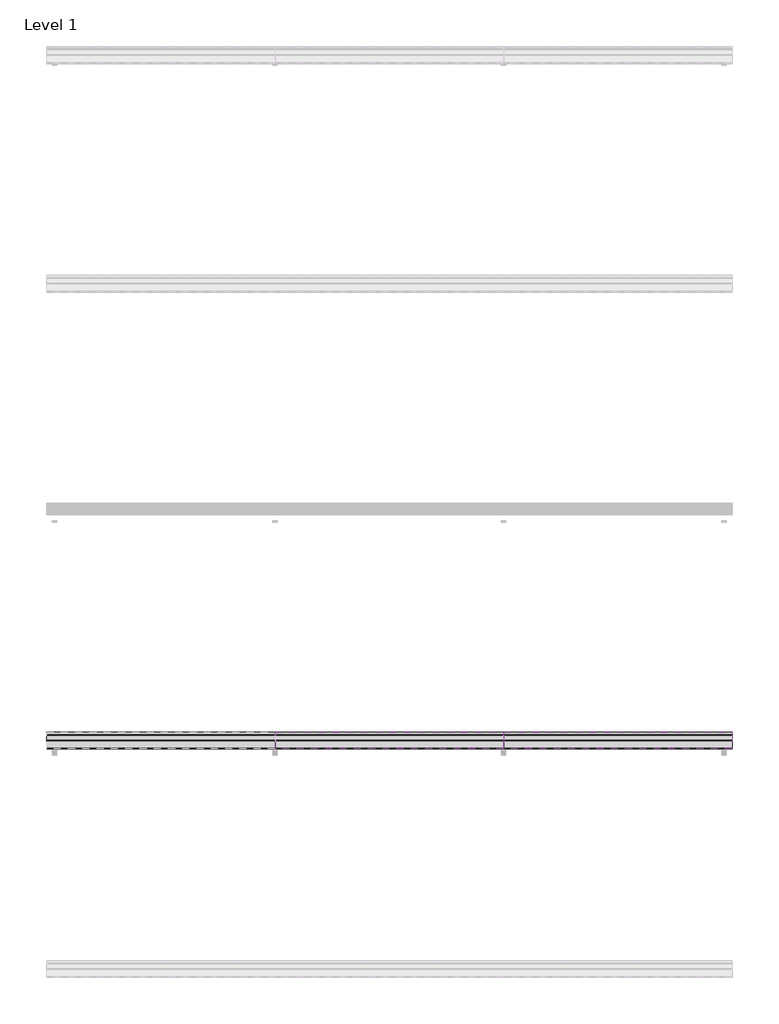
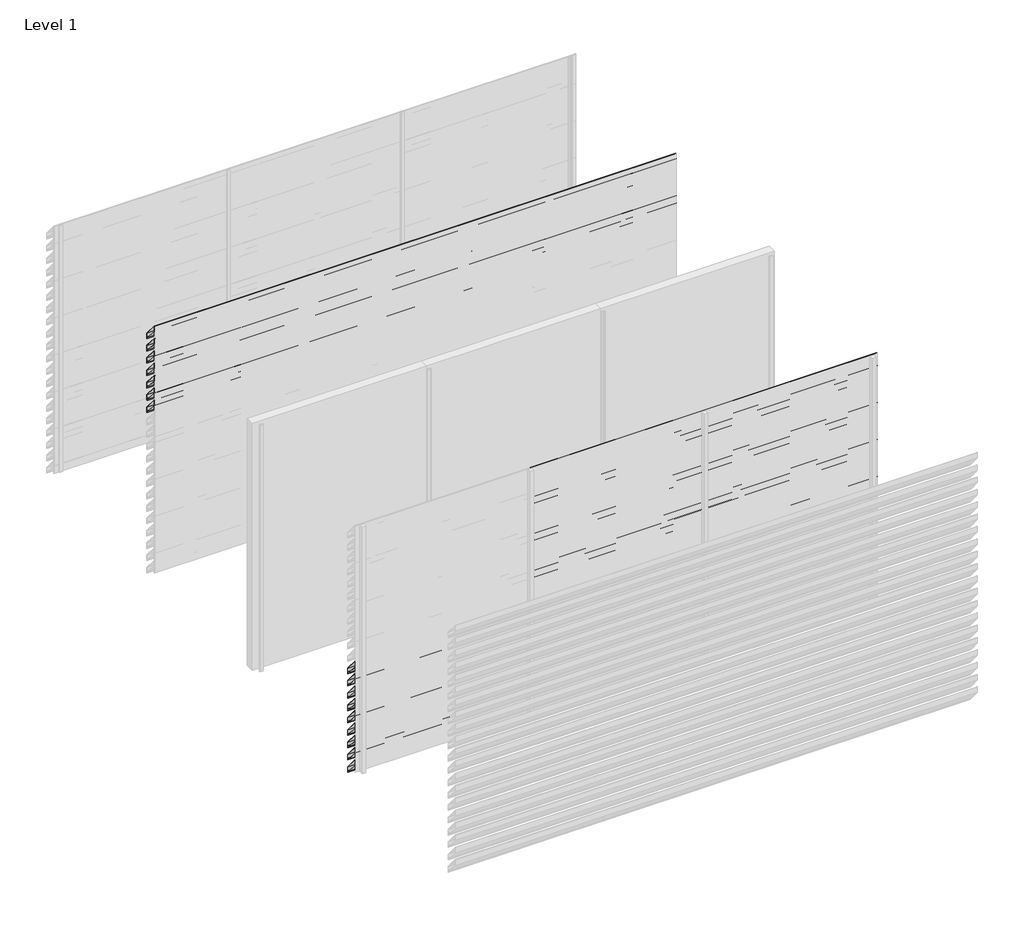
# One storey, part 9 of 16: 56 proxies.
"""IFC4 building model written with IfcOpenShell, lengths in millimetres."""

from ifc_helpers import new_model, si_unit, frame, origin, place, context, project, spatial, polyline, outline, extrude, element, save

model = new_model("IFC4")

# Units and contexts
model_context = context("Model", 3, world=origin())
ifc_project = project(units=[si_unit("LENGTHUNIT", "METRE", prefix="MILLI")], contexts=[model_context])

# Site, building, storey
site = spatial("IfcSite", under=ifc_project)
building = spatial("IfcBuilding", under=site)
storey = spatial("IfcBuildingStorey", under=building, Name="Level 1", Elevation=0.0)

# Proxies
placement = place(None, origin())
element("IfcBuildingElementProxy", 1, Name="Wall Sweeps", at=placement, inside=storey, context=model_context, shape_type="SweptSolid", body=[
    extrude(outline(polyline([(-25851.0, 2830.0), (-25851.0, 2761.0), (-25853.5, 2762.1657691), (-25853.5, 2775.7059843), (-25870.2498671, 2795.6676986), (-25880.9351065, 2795.6676986), (-25998.0, 2935.1802059), (-25998.0, 3000.0), (-25993.6469373, 3000.0), (-25851.0, 2830.0)]), holes=[polyline([(-25996.1, 2998.1), (-25996.1, 2935.8717493), (-25880.049122, 2797.5676986), (-25869.3638825, 2797.5676986), (-25852.9, 2777.9468074), (-25852.9, 2829.3084566), (-25994.5329219, 2998.1), (-25996.1, 2998.1)])]), frame((0.0, 0.0, 0.0), z_axis=(1.0, 0.0, 0.0), x_axis=(0.0, 1.0, 0.0)), (0.0, 0.0, 1.0), 6000.0),
])
element("IfcBuildingElementProxy", 2, Name="Wall Sweeps", at=placement, inside=storey, context=model_context, shape_type="SweptSolid", body=[
    extrude(outline(polyline([(-25851.0, 2680.0), (-25851.0, 2611.0), (-25853.5, 2612.1657691), (-25853.5, 2625.7059843), (-25870.2498671, 2645.6676986), (-25880.9351065, 2645.6676986), (-25998.0, 2785.1802059), (-25998.0, 2850.0), (-25993.6469373, 2850.0), (-25851.0, 2680.0)]), holes=[polyline([(-25996.1, 2848.1), (-25996.1, 2785.8717493), (-25880.049122, 2647.5676986), (-25869.3638825, 2647.5676986), (-25852.9, 2627.9468074), (-25852.9, 2679.3084566), (-25994.5329219, 2848.1), (-25996.1, 2848.1)])]), frame((0.0, 0.0, 0.0), z_axis=(1.0, 0.0, 0.0), x_axis=(0.0, 1.0, 0.0)), (0.0, 0.0, 1.0), 6000.0),
])
element("IfcBuildingElementProxy", 3, Name="Wall Sweeps", at=placement, inside=storey, context=model_context, shape_type="SweptSolid", body=[
    extrude(outline(polyline([(-25851.0, 2530.0), (-25851.0, 2461.0), (-25853.5, 2462.1657691), (-25853.5, 2475.7059843), (-25870.2498671, 2495.6676986), (-25880.9351065, 2495.6676986), (-25998.0, 2635.1802059), (-25998.0, 2700.0), (-25993.6469373, 2700.0), (-25851.0, 2530.0)]), holes=[polyline([(-25996.1, 2698.1), (-25996.1, 2635.8717493), (-25880.049122, 2497.5676986), (-25869.3638825, 2497.5676986), (-25852.9, 2477.9468074), (-25852.9, 2529.3084566), (-25994.5329219, 2698.1), (-25996.1, 2698.1)])]), frame((0.0, 0.0, 0.0), z_axis=(1.0, 0.0, 0.0), x_axis=(0.0, 1.0, 0.0)), (0.0, 0.0, 1.0), 6000.0),
])
element("IfcBuildingElementProxy", 4, Name="Wall Sweeps", at=placement, inside=storey, context=model_context, shape_type="SweptSolid", body=[
    extrude(outline(polyline([(-25851.0, 2380.0), (-25851.0, 2311.0), (-25853.5, 2312.1657691), (-25853.5, 2325.7059843), (-25870.2498671, 2345.6676986), (-25880.9351065, 2345.6676986), (-25998.0, 2485.1802059), (-25998.0, 2550.0), (-25993.6469373, 2550.0), (-25851.0, 2380.0)]), holes=[polyline([(-25996.1, 2548.1), (-25996.1, 2485.8717493), (-25880.049122, 2347.5676986), (-25869.3638825, 2347.5676986), (-25852.9, 2327.9468074), (-25852.9, 2379.3084566), (-25994.5329219, 2548.1), (-25996.1, 2548.1)])]), frame((0.0, 0.0, 0.0), z_axis=(1.0, 0.0, 0.0), x_axis=(0.0, 1.0, 0.0)), (0.0, 0.0, 1.0), 6000.0),
])
element("IfcBuildingElementProxy", 5, Name="Wall Sweeps", at=placement, inside=storey, context=model_context, shape_type="SweptSolid", body=[
    extrude(outline(polyline([(-25851.0, 2230.0), (-25851.0, 2161.0), (-25853.5, 2162.1657691), (-25853.5, 2175.7059843), (-25870.2498671, 2195.6676986), (-25880.9351065, 2195.6676986), (-25998.0, 2335.1802059), (-25998.0, 2400.0), (-25993.6469373, 2400.0), (-25851.0, 2230.0)]), holes=[polyline([(-25996.1, 2398.1), (-25996.1, 2335.8717493), (-25880.049122, 2197.5676986), (-25869.3638825, 2197.5676986), (-25852.9, 2177.9468074), (-25852.9, 2229.3084566), (-25994.5329219, 2398.1), (-25996.1, 2398.1)])]), frame((0.0, 0.0, 0.0), z_axis=(1.0, 0.0, 0.0), x_axis=(0.0, 1.0, 0.0)), (0.0, 0.0, 1.0), 6000.0),
])
element("IfcBuildingElementProxy", 6, Name="Wall Sweeps", at=placement, inside=storey, context=model_context, shape_type="SweptSolid", body=[
    extrude(outline(polyline([(-25851.0, 2080.0), (-25851.0, 2011.0), (-25853.5, 2012.1657691), (-25853.5, 2025.7059843), (-25870.2498671, 2045.6676986), (-25880.9351065, 2045.6676986), (-25998.0, 2185.1802059), (-25998.0, 2250.0), (-25993.6469373, 2250.0), (-25851.0, 2080.0)]), holes=[polyline([(-25996.1, 2248.1), (-25996.1, 2185.8717493), (-25880.049122, 2047.5676986), (-25869.3638825, 2047.5676986), (-25852.9, 2027.9468074), (-25852.9, 2079.3084566), (-25994.5329219, 2248.1), (-25996.1, 2248.1)])]), frame((0.0, 0.0, 0.0), z_axis=(1.0, 0.0, 0.0), x_axis=(0.0, 1.0, 0.0)), (0.0, 0.0, 1.0), 6000.0),
])
element("IfcBuildingElementProxy", 7, Name="Wall Sweeps", at=placement, inside=storey, context=model_context, shape_type="SweptSolid", body=[
    extrude(outline(polyline([(-25851.0, 1930.0), (-25851.0, 1861.0), (-25853.5, 1862.1657691), (-25853.5, 1875.7059843), (-25870.2498671, 1895.6676986), (-25880.9351065, 1895.6676986), (-25998.0, 2035.1802059), (-25998.0, 2100.0), (-25993.6469373, 2100.0), (-25851.0, 1930.0)]), holes=[polyline([(-25996.1, 2098.1), (-25996.1, 2035.8717493), (-25880.049122, 1897.5676986), (-25869.3638825, 1897.5676986), (-25852.9, 1877.9468074), (-25852.9, 1929.3084566), (-25994.5329219, 2098.1), (-25996.1, 2098.1)])]), frame((0.0, 0.0, 0.0), z_axis=(1.0, 0.0, 0.0), x_axis=(0.0, 1.0, 0.0)), (0.0, 0.0, 1.0), 6000.0),
])
element("IfcBuildingElementProxy", 8, Name="Wall Sweeps", at=placement, inside=storey, context=model_context, shape_type="SweptSolid", body=[
    extrude(outline(polyline([(-29851.0, 1180.0), (-29851.0, 1111.0), (-29853.5, 1112.1657691), (-29853.5, 1125.7059843), (-29870.2498671, 1145.6676986), (-29880.9351065, 1145.6676986), (-29998.0, 1285.1802059), (-29998.0, 1350.0), (-29993.6469373, 1350.0), (-29851.0, 1180.0)]), holes=[polyline([(-29996.1, 1348.1), (-29996.1, 1285.8717493), (-29880.049122, 1147.5676986), (-29869.3638825, 1147.5676986), (-29852.9, 1127.9468074), (-29852.9, 1179.3084566), (-29994.5329219, 1348.1), (-29996.1, 1348.1)])]), frame((0.0, 0.0, 0.0), z_axis=(1.0, 0.0, 0.0), x_axis=(0.0, 1.0, 0.0)), (0.0, 0.0, 1.0), 2000.0),
])
element("IfcBuildingElementProxy", 9, Name="Wall Sweeps", at=placement, inside=storey, context=model_context, shape_type="SweptSolid", body=[
    extrude(outline(polyline([(-29851.0, 1030.0), (-29851.0, 961.0), (-29853.5, 962.1657691), (-29853.5, 975.7059843), (-29870.2498671, 995.6676986), (-29880.9351065, 995.6676986), (-29998.0, 1135.1802059), (-29998.0, 1200.0), (-29993.6469373, 1200.0), (-29851.0, 1030.0)]), holes=[polyline([(-29996.1, 1198.1), (-29996.1, 1135.8717493), (-29880.049122, 997.5676986), (-29869.3638825, 997.5676986), (-29852.9, 977.9468074), (-29852.9, 1029.3084566), (-29994.5329219, 1198.1), (-29996.1, 1198.1)])]), frame((0.0, 0.0, 0.0), z_axis=(1.0, 0.0, 0.0), x_axis=(0.0, 1.0, 0.0)), (0.0, 0.0, 1.0), 2000.0),
])
element("IfcBuildingElementProxy", 10, Name="Wall Sweeps", at=placement, inside=storey, context=model_context, shape_type="SweptSolid", body=[
    extrude(outline(polyline([(-29851.0, 880.0), (-29851.0, 811.0), (-29853.5, 812.1657691), (-29853.5, 825.7059843), (-29870.2498671, 845.6676986), (-29880.9351065, 845.6676986), (-29998.0, 985.1802059), (-29998.0, 1050.0), (-29993.6469373, 1050.0), (-29851.0, 880.0)]), holes=[polyline([(-29996.1, 1048.1), (-29996.1, 985.8717493), (-29880.049122, 847.5676986), (-29869.3638825, 847.5676986), (-29852.9, 827.9468074), (-29852.9, 879.3084566), (-29994.5329219, 1048.1), (-29996.1, 1048.1)])]), frame((0.0, 0.0, 0.0), z_axis=(1.0, 0.0, 0.0), x_axis=(0.0, 1.0, 0.0)), (0.0, 0.0, 1.0), 2000.0),
])
element("IfcBuildingElementProxy", 11, Name="Wall Sweeps", at=placement, inside=storey, context=model_context, shape_type="SweptSolid", body=[
    extrude(outline(polyline([(-29851.0, 730.0), (-29851.0, 661.0), (-29853.5, 662.1657691), (-29853.5, 675.7059843), (-29870.2498671, 695.6676986), (-29880.9351065, 695.6676986), (-29998.0, 835.1802059), (-29998.0, 900.0), (-29993.6469373, 900.0), (-29851.0, 730.0)]), holes=[polyline([(-29996.1, 898.1), (-29996.1, 835.8717493), (-29880.049122, 697.5676986), (-29869.3638825, 697.5676986), (-29852.9, 677.9468074), (-29852.9, 729.3084566), (-29994.5329219, 898.1), (-29996.1, 898.1)])]), frame((0.0, 0.0, 0.0), z_axis=(1.0, 0.0, 0.0), x_axis=(0.0, 1.0, 0.0)), (0.0, 0.0, 1.0), 2000.0),
])
element("IfcBuildingElementProxy", 12, Name="Wall Sweeps", at=placement, inside=storey, context=model_context, shape_type="SweptSolid", body=[
    extrude(outline(polyline([(-29851.0, 580.0), (-29851.0, 511.0), (-29853.5, 512.1657691), (-29853.5, 525.7059843), (-29870.2498671, 545.6676986), (-29880.9351065, 545.6676986), (-29998.0, 685.1802059), (-29998.0, 750.0), (-29993.6469373, 750.0), (-29851.0, 580.0)]), holes=[polyline([(-29996.1, 748.1), (-29996.1, 685.8717493), (-29880.049122, 547.5676986), (-29869.3638825, 547.5676986), (-29852.9, 527.9468074), (-29852.9, 579.3084566), (-29994.5329219, 748.1), (-29996.1, 748.1)])]), frame((0.0, 0.0, 0.0), z_axis=(1.0, 0.0, 0.0), x_axis=(0.0, 1.0, 0.0)), (0.0, 0.0, 1.0), 2000.0),
])
element("IfcBuildingElementProxy", 13, Name="Wall Sweeps", at=placement, inside=storey, context=model_context, shape_type="SweptSolid", body=[
    extrude(outline(polyline([(-29851.0, 430.0), (-29851.0, 361.0), (-29853.5, 362.1657691), (-29853.5, 375.7059843), (-29870.2498671, 395.6676986), (-29880.9351065, 395.6676986), (-29998.0, 535.1802059), (-29998.0, 600.0), (-29993.6469373, 600.0), (-29851.0, 430.0)]), holes=[polyline([(-29996.1, 598.1), (-29996.1, 535.8717493), (-29880.049122, 397.5676986), (-29869.3638825, 397.5676986), (-29852.9, 377.9468074), (-29852.9, 429.3084566), (-29994.5329219, 598.1), (-29996.1, 598.1)])]), frame((0.0, 0.0, 0.0), z_axis=(1.0, 0.0, 0.0), x_axis=(0.0, 1.0, 0.0)), (0.0, 0.0, 1.0), 2000.0),
])
element("IfcBuildingElementProxy", 14, Name="Wall Sweeps", at=placement, inside=storey, context=model_context, shape_type="SweptSolid", body=[
    extrude(outline(polyline([(-29851.0, 280.0), (-29851.0, 211.0), (-29853.5, 212.1657691), (-29853.5, 225.7059843), (-29870.2498671, 245.6676986), (-29880.9351065, 245.6676986), (-29998.0, 385.1802059), (-29998.0, 450.0), (-29993.6469373, 450.0), (-29851.0, 280.0)]), holes=[polyline([(-29996.1, 448.1), (-29996.1, 385.8717493), (-29880.049122, 247.5676986), (-29869.3638825, 247.5676986), (-29852.9, 227.9468074), (-29852.9, 279.3084566), (-29994.5329219, 448.1), (-29996.1, 448.1)])]), frame((0.0, 0.0, 0.0), z_axis=(1.0, 0.0, 0.0), x_axis=(0.0, 1.0, 0.0)), (0.0, 0.0, 1.0), 2000.0),
])
element("IfcBuildingElementProxy", 15, Name="Wall Sweeps", at=placement, inside=storey, context=model_context, shape_type="SweptSolid", body=[
    extrude(outline(polyline([(-29851.0, 130.0), (-29851.0, 61.0), (-29853.5, 62.1657691), (-29853.5, 75.7059843), (-29870.2498671, 95.6676986), (-29880.9351065, 95.6676986), (-29998.0, 235.1802059), (-29998.0, 300.0), (-29993.6469373, 300.0), (-29851.0, 130.0)]), holes=[polyline([(-29996.1, 298.1), (-29996.1, 235.8717493), (-29880.049122, 97.5676986), (-29869.3638825, 97.5676986), (-29852.9, 77.9468074), (-29852.9, 129.3084566), (-29994.5329219, 298.1), (-29996.1, 298.1)])]), frame((0.0, 0.0, 0.0), z_axis=(1.0, 0.0, 0.0), x_axis=(0.0, 1.0, 0.0)), (0.0, 0.0, 1.0), 2000.0),
])
element("IfcBuildingElementProxy", 16, Name="Wall Sweeps", at=placement, inside=storey, context=model_context, shape_type="SweptSolid", body=[
    extrude(outline(polyline([(-29851.0, -20.0), (-29851.0, -89.0), (-29853.5, -87.8342309), (-29853.5, -74.2940157), (-29870.2498671, -54.3323014), (-29880.9351065, -54.3323014), (-29998.0, 85.1802059), (-29998.0, 150.0), (-29993.6469373, 150.0), (-29851.0, -20.0)]), holes=[polyline([(-29996.1, 148.1), (-29996.1, 85.8717493), (-29880.049122, -52.4323014), (-29869.3638825, -52.4323014), (-29852.9, -72.0531926), (-29852.9, -20.6915434), (-29994.5329219, 148.1), (-29996.1, 148.1)])]), frame((0.0, 0.0, 0.0), z_axis=(1.0, 0.0, 0.0), x_axis=(0.0, 1.0, 0.0)), (0.0, 0.0, 1.0), 2000.0),
])
element("IfcBuildingElementProxy", 17, Name="Wall Sweeps", at=placement, inside=storey, context=model_context, shape_type="SweptSolid", body=[
    extrude(outline(polyline([(-29851.0, 2830.0), (-29851.0, 2761.0), (-29853.5, 2762.1657691), (-29853.5, 2775.7059843), (-29870.2498671, 2795.6676986), (-29880.9351065, 2795.6676986), (-29998.0, 2935.1802059), (-29998.0, 3000.0), (-29993.6469373, 3000.0), (-29851.0, 2830.0)]), holes=[polyline([(-29996.1, 2998.1), (-29996.1, 2935.8717493), (-29880.049122, 2797.5676986), (-29869.3638825, 2797.5676986), (-29852.9, 2777.9468074), (-29852.9, 2829.3084566), (-29994.5329219, 2998.1), (-29996.1, 2998.1)])]), frame((2000.0, 0.0, 0.0), z_axis=(1.0, 0.0, 0.0), x_axis=(0.0, 1.0, 0.0)), (0.0, 0.0, 1.0), 2000.0),
])
element("IfcBuildingElementProxy", 18, Name="Wall Sweeps", at=placement, inside=storey, context=model_context, shape_type="SweptSolid", body=[
    extrude(outline(polyline([(-29851.0, 2680.0), (-29851.0, 2611.0), (-29853.5, 2612.1657691), (-29853.5, 2625.7059843), (-29870.2498671, 2645.6676986), (-29880.9351065, 2645.6676986), (-29998.0, 2785.1802059), (-29998.0, 2850.0), (-29993.6469373, 2850.0), (-29851.0, 2680.0)]), holes=[polyline([(-29996.1, 2848.1), (-29996.1, 2785.8717493), (-29880.049122, 2647.5676986), (-29869.3638825, 2647.5676986), (-29852.9, 2627.9468074), (-29852.9, 2679.3084566), (-29994.5329219, 2848.1), (-29996.1, 2848.1)])]), frame((2000.0, 0.0, 0.0), z_axis=(1.0, 0.0, 0.0), x_axis=(0.0, 1.0, 0.0)), (0.0, 0.0, 1.0), 2000.0),
])
element("IfcBuildingElementProxy", 19, Name="Wall Sweeps", at=placement, inside=storey, context=model_context, shape_type="SweptSolid", body=[
    extrude(outline(polyline([(-29851.0, 2530.0), (-29851.0, 2461.0), (-29853.5, 2462.1657691), (-29853.5, 2475.7059843), (-29870.2498671, 2495.6676986), (-29880.9351065, 2495.6676986), (-29998.0, 2635.1802059), (-29998.0, 2700.0), (-29993.6469373, 2700.0), (-29851.0, 2530.0)]), holes=[polyline([(-29996.1, 2698.1), (-29996.1, 2635.8717493), (-29880.049122, 2497.5676986), (-29869.3638825, 2497.5676986), (-29852.9, 2477.9468074), (-29852.9, 2529.3084566), (-29994.5329219, 2698.1), (-29996.1, 2698.1)])]), frame((2000.0, 0.0, 0.0), z_axis=(1.0, 0.0, 0.0), x_axis=(0.0, 1.0, 0.0)), (0.0, 0.0, 1.0), 2000.0),
])
element("IfcBuildingElementProxy", 20, Name="Wall Sweeps", at=placement, inside=storey, context=model_context, shape_type="SweptSolid", body=[
    extrude(outline(polyline([(-29851.0, 2380.0), (-29851.0, 2311.0), (-29853.5, 2312.1657691), (-29853.5, 2325.7059843), (-29870.2498671, 2345.6676986), (-29880.9351065, 2345.6676986), (-29998.0, 2485.1802059), (-29998.0, 2550.0), (-29993.6469373, 2550.0), (-29851.0, 2380.0)]), holes=[polyline([(-29996.1, 2548.1), (-29996.1, 2485.8717493), (-29880.049122, 2347.5676986), (-29869.3638825, 2347.5676986), (-29852.9, 2327.9468074), (-29852.9, 2379.3084566), (-29994.5329219, 2548.1), (-29996.1, 2548.1)])]), frame((2000.0, 0.0, 0.0), z_axis=(1.0, 0.0, 0.0), x_axis=(0.0, 1.0, 0.0)), (0.0, 0.0, 1.0), 2000.0),
])
element("IfcBuildingElementProxy", 21, Name="Wall Sweeps", at=placement, inside=storey, context=model_context, shape_type="SweptSolid", body=[
    extrude(outline(polyline([(-29851.0, 2230.0), (-29851.0, 2161.0), (-29853.5, 2162.1657691), (-29853.5, 2175.7059843), (-29870.2498671, 2195.6676986), (-29880.9351065, 2195.6676986), (-29998.0, 2335.1802059), (-29998.0, 2400.0), (-29993.6469373, 2400.0), (-29851.0, 2230.0)]), holes=[polyline([(-29996.1, 2398.1), (-29996.1, 2335.8717493), (-29880.049122, 2197.5676986), (-29869.3638825, 2197.5676986), (-29852.9, 2177.9468074), (-29852.9, 2229.3084566), (-29994.5329219, 2398.1), (-29996.1, 2398.1)])]), frame((2000.0, 0.0, 0.0), z_axis=(1.0, 0.0, 0.0), x_axis=(0.0, 1.0, 0.0)), (0.0, 0.0, 1.0), 2000.0),
])
element("IfcBuildingElementProxy", 22, Name="Wall Sweeps", at=placement, inside=storey, context=model_context, shape_type="SweptSolid", body=[
    extrude(outline(polyline([(-29851.0, 2080.0), (-29851.0, 2011.0), (-29853.5, 2012.1657691), (-29853.5, 2025.7059843), (-29870.2498671, 2045.6676986), (-29880.9351065, 2045.6676986), (-29998.0, 2185.1802059), (-29998.0, 2250.0), (-29993.6469373, 2250.0), (-29851.0, 2080.0)]), holes=[polyline([(-29996.1, 2248.1), (-29996.1, 2185.8717493), (-29880.049122, 2047.5676986), (-29869.3638825, 2047.5676986), (-29852.9, 2027.9468074), (-29852.9, 2079.3084566), (-29994.5329219, 2248.1), (-29996.1, 2248.1)])]), frame((2000.0, 0.0, 0.0), z_axis=(1.0, 0.0, 0.0), x_axis=(0.0, 1.0, 0.0)), (0.0, 0.0, 1.0), 2000.0),
])
element("IfcBuildingElementProxy", 23, Name="Wall Sweeps", at=placement, inside=storey, context=model_context, shape_type="SweptSolid", body=[
    extrude(outline(polyline([(-29851.0, 1930.0), (-29851.0, 1861.0), (-29853.5, 1862.1657691), (-29853.5, 1875.7059843), (-29870.2498671, 1895.6676986), (-29880.9351065, 1895.6676986), (-29998.0, 2035.1802059), (-29998.0, 2100.0), (-29993.6469373, 2100.0), (-29851.0, 1930.0)]), holes=[polyline([(-29996.1, 2098.1), (-29996.1, 2035.8717493), (-29880.049122, 1897.5676986), (-29869.3638825, 1897.5676986), (-29852.9, 1877.9468074), (-29852.9, 1929.3084566), (-29994.5329219, 2098.1), (-29996.1, 2098.1)])]), frame((2000.0, 0.0, 0.0), z_axis=(1.0, 0.0, 0.0), x_axis=(0.0, 1.0, 0.0)), (0.0, 0.0, 1.0), 2000.0),
])
element("IfcBuildingElementProxy", 24, Name="Wall Sweeps", at=placement, inside=storey, context=model_context, shape_type="SweptSolid", body=[
    extrude(outline(polyline([(-29851.0, 1780.0), (-29851.0, 1711.0), (-29853.5, 1712.1657691), (-29853.5, 1725.7059843), (-29870.2498671, 1745.6676986), (-29880.9351065, 1745.6676986), (-29998.0, 1885.1802059), (-29998.0, 1950.0), (-29993.6469373, 1950.0), (-29851.0, 1780.0)]), holes=[polyline([(-29996.1, 1948.1), (-29996.1, 1885.8717493), (-29880.049122, 1747.5676986), (-29869.3638825, 1747.5676986), (-29852.9, 1727.9468074), (-29852.9, 1779.3084566), (-29994.5329219, 1948.1), (-29996.1, 1948.1)])]), frame((2000.0, 0.0, 0.0), z_axis=(1.0, 0.0, 0.0), x_axis=(0.0, 1.0, 0.0)), (0.0, 0.0, 1.0), 2000.0),
])
element("IfcBuildingElementProxy", 25, Name="Wall Sweeps", at=placement, inside=storey, context=model_context, shape_type="SweptSolid", body=[
    extrude(outline(polyline([(-29851.0, 1630.0), (-29851.0, 1561.0), (-29853.5, 1562.1657691), (-29853.5, 1575.7059843), (-29870.2498671, 1595.6676986), (-29880.9351065, 1595.6676986), (-29998.0, 1735.1802059), (-29998.0, 1800.0), (-29993.6469373, 1800.0), (-29851.0, 1630.0)]), holes=[polyline([(-29996.1, 1798.1), (-29996.1, 1735.8717493), (-29880.049122, 1597.5676986), (-29869.3638825, 1597.5676986), (-29852.9, 1577.9468074), (-29852.9, 1629.3084566), (-29994.5329219, 1798.1), (-29996.1, 1798.1)])]), frame((2000.0, 0.0, 0.0), z_axis=(1.0, 0.0, 0.0), x_axis=(0.0, 1.0, 0.0)), (0.0, 0.0, 1.0), 2000.0),
])
element("IfcBuildingElementProxy", 26, Name="Wall Sweeps", at=placement, inside=storey, context=model_context, shape_type="SweptSolid", body=[
    extrude(outline(polyline([(-29851.0, 1480.0), (-29851.0, 1411.0), (-29853.5, 1412.1657691), (-29853.5, 1425.7059843), (-29870.2498671, 1445.6676986), (-29880.9351065, 1445.6676986), (-29998.0, 1585.1802059), (-29998.0, 1650.0), (-29993.6469373, 1650.0), (-29851.0, 1480.0)]), holes=[polyline([(-29996.1, 1648.1), (-29996.1, 1585.8717493), (-29880.049122, 1447.5676986), (-29869.3638825, 1447.5676986), (-29852.9, 1427.9468074), (-29852.9, 1479.3084566), (-29994.5329219, 1648.1), (-29996.1, 1648.1)])]), frame((2000.0, 0.0, 0.0), z_axis=(1.0, 0.0, 0.0), x_axis=(0.0, 1.0, 0.0)), (0.0, 0.0, 1.0), 2000.0),
])
element("IfcBuildingElementProxy", 27, Name="Wall Sweeps", at=placement, inside=storey, context=model_context, shape_type="SweptSolid", body=[
    extrude(outline(polyline([(-29851.0, 1330.0), (-29851.0, 1261.0), (-29853.5, 1262.1657691), (-29853.5, 1275.7059843), (-29870.2498671, 1295.6676986), (-29880.9351065, 1295.6676986), (-29998.0, 1435.1802059), (-29998.0, 1500.0), (-29993.6469373, 1500.0), (-29851.0, 1330.0)]), holes=[polyline([(-29996.1, 1498.1), (-29996.1, 1435.8717493), (-29880.049122, 1297.5676986), (-29869.3638825, 1297.5676986), (-29852.9, 1277.9468074), (-29852.9, 1329.3084566), (-29994.5329219, 1498.1), (-29996.1, 1498.1)])]), frame((2000.0, 0.0, 0.0), z_axis=(1.0, 0.0, 0.0), x_axis=(0.0, 1.0, 0.0)), (0.0, 0.0, 1.0), 2000.0),
])
element("IfcBuildingElementProxy", 28, Name="Wall Sweeps", at=placement, inside=storey, context=model_context, shape_type="SweptSolid", body=[
    extrude(outline(polyline([(-29851.0, 1180.0), (-29851.0, 1111.0), (-29853.5, 1112.1657691), (-29853.5, 1125.7059843), (-29870.2498671, 1145.6676986), (-29880.9351065, 1145.6676986), (-29998.0, 1285.1802059), (-29998.0, 1350.0), (-29993.6469373, 1350.0), (-29851.0, 1180.0)]), holes=[polyline([(-29996.1, 1348.1), (-29996.1, 1285.8717493), (-29880.049122, 1147.5676986), (-29869.3638825, 1147.5676986), (-29852.9, 1127.9468074), (-29852.9, 1179.3084566), (-29994.5329219, 1348.1), (-29996.1, 1348.1)])]), frame((2000.0, 0.0, 0.0), z_axis=(1.0, 0.0, 0.0), x_axis=(0.0, 1.0, 0.0)), (0.0, 0.0, 1.0), 2000.0),
])
element("IfcBuildingElementProxy", 29, Name="Wall Sweeps", at=placement, inside=storey, context=model_context, shape_type="SweptSolid", body=[
    extrude(outline(polyline([(-29851.0, 1030.0), (-29851.0, 961.0), (-29853.5, 962.1657691), (-29853.5, 975.7059843), (-29870.2498671, 995.6676986), (-29880.9351065, 995.6676986), (-29998.0, 1135.1802059), (-29998.0, 1200.0), (-29993.6469373, 1200.0), (-29851.0, 1030.0)]), holes=[polyline([(-29996.1, 1198.1), (-29996.1, 1135.8717493), (-29880.049122, 997.5676986), (-29869.3638825, 997.5676986), (-29852.9, 977.9468074), (-29852.9, 1029.3084566), (-29994.5329219, 1198.1), (-29996.1, 1198.1)])]), frame((2000.0, 0.0, 0.0), z_axis=(1.0, 0.0, 0.0), x_axis=(0.0, 1.0, 0.0)), (0.0, 0.0, 1.0), 2000.0),
])
element("IfcBuildingElementProxy", 30, Name="Wall Sweeps", at=placement, inside=storey, context=model_context, shape_type="SweptSolid", body=[
    extrude(outline(polyline([(-29851.0, 880.0), (-29851.0, 811.0), (-29853.5, 812.1657691), (-29853.5, 825.7059843), (-29870.2498671, 845.6676986), (-29880.9351065, 845.6676986), (-29998.0, 985.1802059), (-29998.0, 1050.0), (-29993.6469373, 1050.0), (-29851.0, 880.0)]), holes=[polyline([(-29996.1, 1048.1), (-29996.1, 985.8717493), (-29880.049122, 847.5676986), (-29869.3638825, 847.5676986), (-29852.9, 827.9468074), (-29852.9, 879.3084566), (-29994.5329219, 1048.1), (-29996.1, 1048.1)])]), frame((2000.0, 0.0, 0.0), z_axis=(1.0, 0.0, 0.0), x_axis=(0.0, 1.0, 0.0)), (0.0, 0.0, 1.0), 2000.0),
])
element("IfcBuildingElementProxy", 31, Name="Wall Sweeps", at=placement, inside=storey, context=model_context, shape_type="SweptSolid", body=[
    extrude(outline(polyline([(-29851.0, 730.0), (-29851.0, 661.0), (-29853.5, 662.1657691), (-29853.5, 675.7059843), (-29870.2498671, 695.6676986), (-29880.9351065, 695.6676986), (-29998.0, 835.1802059), (-29998.0, 900.0), (-29993.6469373, 900.0), (-29851.0, 730.0)]), holes=[polyline([(-29996.1, 898.1), (-29996.1, 835.8717493), (-29880.049122, 697.5676986), (-29869.3638825, 697.5676986), (-29852.9, 677.9468074), (-29852.9, 729.3084566), (-29994.5329219, 898.1), (-29996.1, 898.1)])]), frame((2000.0, 0.0, 0.0), z_axis=(1.0, 0.0, 0.0), x_axis=(0.0, 1.0, 0.0)), (0.0, 0.0, 1.0), 2000.0),
])
element("IfcBuildingElementProxy", 32, Name="Wall Sweeps", at=placement, inside=storey, context=model_context, shape_type="SweptSolid", body=[
    extrude(outline(polyline([(-29851.0, 580.0), (-29851.0, 511.0), (-29853.5, 512.1657691), (-29853.5, 525.7059843), (-29870.2498671, 545.6676986), (-29880.9351065, 545.6676986), (-29998.0, 685.1802059), (-29998.0, 750.0), (-29993.6469373, 750.0), (-29851.0, 580.0)]), holes=[polyline([(-29996.1, 748.1), (-29996.1, 685.8717493), (-29880.049122, 547.5676986), (-29869.3638825, 547.5676986), (-29852.9, 527.9468074), (-29852.9, 579.3084566), (-29994.5329219, 748.1), (-29996.1, 748.1)])]), frame((2000.0, 0.0, 0.0), z_axis=(1.0, 0.0, 0.0), x_axis=(0.0, 1.0, 0.0)), (0.0, 0.0, 1.0), 2000.0),
])
element("IfcBuildingElementProxy", 33, Name="Wall Sweeps", at=placement, inside=storey, context=model_context, shape_type="SweptSolid", body=[
    extrude(outline(polyline([(-29851.0, 430.0), (-29851.0, 361.0), (-29853.5, 362.1657691), (-29853.5, 375.7059843), (-29870.2498671, 395.6676986), (-29880.9351065, 395.6676986), (-29998.0, 535.1802059), (-29998.0, 600.0), (-29993.6469373, 600.0), (-29851.0, 430.0)]), holes=[polyline([(-29996.1, 598.1), (-29996.1, 535.8717493), (-29880.049122, 397.5676986), (-29869.3638825, 397.5676986), (-29852.9, 377.9468074), (-29852.9, 429.3084566), (-29994.5329219, 598.1), (-29996.1, 598.1)])]), frame((2000.0, 0.0, 0.0), z_axis=(1.0, 0.0, 0.0), x_axis=(0.0, 1.0, 0.0)), (0.0, 0.0, 1.0), 2000.0),
])
element("IfcBuildingElementProxy", 34, Name="Wall Sweeps", at=placement, inside=storey, context=model_context, shape_type="SweptSolid", body=[
    extrude(outline(polyline([(-29851.0, 280.0), (-29851.0, 211.0), (-29853.5, 212.1657691), (-29853.5, 225.7059843), (-29870.2498671, 245.6676986), (-29880.9351065, 245.6676986), (-29998.0, 385.1802059), (-29998.0, 450.0), (-29993.6469373, 450.0), (-29851.0, 280.0)]), holes=[polyline([(-29996.1, 448.1), (-29996.1, 385.8717493), (-29880.049122, 247.5676986), (-29869.3638825, 247.5676986), (-29852.9, 227.9468074), (-29852.9, 279.3084566), (-29994.5329219, 448.1), (-29996.1, 448.1)])]), frame((2000.0, 0.0, 0.0), z_axis=(1.0, 0.0, 0.0), x_axis=(0.0, 1.0, 0.0)), (0.0, 0.0, 1.0), 2000.0),
])
element("IfcBuildingElementProxy", 35, Name="Wall Sweeps", at=placement, inside=storey, context=model_context, shape_type="SweptSolid", body=[
    extrude(outline(polyline([(-29851.0, 130.0), (-29851.0, 61.0), (-29853.5, 62.1657691), (-29853.5, 75.7059843), (-29870.2498671, 95.6676986), (-29880.9351065, 95.6676986), (-29998.0, 235.1802059), (-29998.0, 300.0), (-29993.6469373, 300.0), (-29851.0, 130.0)]), holes=[polyline([(-29996.1, 298.1), (-29996.1, 235.8717493), (-29880.049122, 97.5676986), (-29869.3638825, 97.5676986), (-29852.9, 77.9468074), (-29852.9, 129.3084566), (-29994.5329219, 298.1), (-29996.1, 298.1)])]), frame((2000.0, 0.0, 0.0), z_axis=(1.0, 0.0, 0.0), x_axis=(0.0, 1.0, 0.0)), (0.0, 0.0, 1.0), 2000.0),
])
element("IfcBuildingElementProxy", 36, Name="Wall Sweeps", at=placement, inside=storey, context=model_context, shape_type="SweptSolid", body=[
    extrude(outline(polyline([(-29851.0, -20.0), (-29851.0, -89.0), (-29853.5, -87.8342309), (-29853.5, -74.2940157), (-29870.2498671, -54.3323014), (-29880.9351065, -54.3323014), (-29998.0, 85.1802059), (-29998.0, 150.0), (-29993.6469373, 150.0), (-29851.0, -20.0)]), holes=[polyline([(-29996.1, 148.1), (-29996.1, 85.8717493), (-29880.049122, -52.4323014), (-29869.3638825, -52.4323014), (-29852.9, -72.0531926), (-29852.9, -20.6915434), (-29994.5329219, 148.1), (-29996.1, 148.1)])]), frame((2000.0, 0.0, 0.0), z_axis=(1.0, 0.0, 0.0), x_axis=(0.0, 1.0, 0.0)), (0.0, 0.0, 1.0), 2000.0),
])
element("IfcBuildingElementProxy", 37, Name="Wall Sweeps", at=placement, inside=storey, context=model_context, shape_type="SweptSolid", body=[
    extrude(outline(polyline([(-29851.0, 2830.0), (-29851.0, 2761.0), (-29853.5, 2762.1657691), (-29853.5, 2775.7059843), (-29870.2498671, 2795.6676986), (-29880.9351065, 2795.6676986), (-29998.0, 2935.1802059), (-29998.0, 3000.0), (-29993.6469373, 3000.0), (-29851.0, 2830.0)]), holes=[polyline([(-29996.1, 2998.1), (-29996.1, 2935.8717493), (-29880.049122, 2797.5676986), (-29869.3638825, 2797.5676986), (-29852.9, 2777.9468074), (-29852.9, 2829.3084566), (-29994.5329219, 2998.1), (-29996.1, 2998.1)])]), frame((4000.0, 0.0, 0.0), z_axis=(1.0, 0.0, 0.0), x_axis=(0.0, 1.0, 0.0)), (0.0, 0.0, 1.0), 2000.0),
])
element("IfcBuildingElementProxy", 38, Name="Wall Sweeps", at=placement, inside=storey, context=model_context, shape_type="SweptSolid", body=[
    extrude(outline(polyline([(-29851.0, 2680.0), (-29851.0, 2611.0), (-29853.5, 2612.1657691), (-29853.5, 2625.7059843), (-29870.2498671, 2645.6676986), (-29880.9351065, 2645.6676986), (-29998.0, 2785.1802059), (-29998.0, 2850.0), (-29993.6469373, 2850.0), (-29851.0, 2680.0)]), holes=[polyline([(-29996.1, 2848.1), (-29996.1, 2785.8717493), (-29880.049122, 2647.5676986), (-29869.3638825, 2647.5676986), (-29852.9, 2627.9468074), (-29852.9, 2679.3084566), (-29994.5329219, 2848.1), (-29996.1, 2848.1)])]), frame((4000.0, 0.0, 0.0), z_axis=(1.0, 0.0, 0.0), x_axis=(0.0, 1.0, 0.0)), (0.0, 0.0, 1.0), 2000.0),
])
element("IfcBuildingElementProxy", 39, Name="Wall Sweeps", at=placement, inside=storey, context=model_context, shape_type="SweptSolid", body=[
    extrude(outline(polyline([(-29851.0, 2530.0), (-29851.0, 2461.0), (-29853.5, 2462.1657691), (-29853.5, 2475.7059843), (-29870.2498671, 2495.6676986), (-29880.9351065, 2495.6676986), (-29998.0, 2635.1802059), (-29998.0, 2700.0), (-29993.6469373, 2700.0), (-29851.0, 2530.0)]), holes=[polyline([(-29996.1, 2698.1), (-29996.1, 2635.8717493), (-29880.049122, 2497.5676986), (-29869.3638825, 2497.5676986), (-29852.9, 2477.9468074), (-29852.9, 2529.3084566), (-29994.5329219, 2698.1), (-29996.1, 2698.1)])]), frame((4000.0, 0.0, 0.0), z_axis=(1.0, 0.0, 0.0), x_axis=(0.0, 1.0, 0.0)), (0.0, 0.0, 1.0), 2000.0),
])
element("IfcBuildingElementProxy", 40, Name="Wall Sweeps", at=placement, inside=storey, context=model_context, shape_type="SweptSolid", body=[
    extrude(outline(polyline([(-29851.0, 2380.0), (-29851.0, 2311.0), (-29853.5, 2312.1657691), (-29853.5, 2325.7059843), (-29870.2498671, 2345.6676986), (-29880.9351065, 2345.6676986), (-29998.0, 2485.1802059), (-29998.0, 2550.0), (-29993.6469373, 2550.0), (-29851.0, 2380.0)]), holes=[polyline([(-29996.1, 2548.1), (-29996.1, 2485.8717493), (-29880.049122, 2347.5676986), (-29869.3638825, 2347.5676986), (-29852.9, 2327.9468074), (-29852.9, 2379.3084566), (-29994.5329219, 2548.1), (-29996.1, 2548.1)])]), frame((4000.0, 0.0, 0.0), z_axis=(1.0, 0.0, 0.0), x_axis=(0.0, 1.0, 0.0)), (0.0, 0.0, 1.0), 2000.0),
])
element("IfcBuildingElementProxy", 41, Name="Wall Sweeps", at=placement, inside=storey, context=model_context, shape_type="SweptSolid", body=[
    extrude(outline(polyline([(-29851.0, 2230.0), (-29851.0, 2161.0), (-29853.5, 2162.1657691), (-29853.5, 2175.7059843), (-29870.2498671, 2195.6676986), (-29880.9351065, 2195.6676986), (-29998.0, 2335.1802059), (-29998.0, 2400.0), (-29993.6469373, 2400.0), (-29851.0, 2230.0)]), holes=[polyline([(-29996.1, 2398.1), (-29996.1, 2335.8717493), (-29880.049122, 2197.5676986), (-29869.3638825, 2197.5676986), (-29852.9, 2177.9468074), (-29852.9, 2229.3084566), (-29994.5329219, 2398.1), (-29996.1, 2398.1)])]), frame((4000.0, 0.0, 0.0), z_axis=(1.0, 0.0, 0.0), x_axis=(0.0, 1.0, 0.0)), (0.0, 0.0, 1.0), 2000.0),
])
element("IfcBuildingElementProxy", 42, Name="Wall Sweeps", at=placement, inside=storey, context=model_context, shape_type="SweptSolid", body=[
    extrude(outline(polyline([(-29851.0, 2080.0), (-29851.0, 2011.0), (-29853.5, 2012.1657691), (-29853.5, 2025.7059843), (-29870.2498671, 2045.6676986), (-29880.9351065, 2045.6676986), (-29998.0, 2185.1802059), (-29998.0, 2250.0), (-29993.6469373, 2250.0), (-29851.0, 2080.0)]), holes=[polyline([(-29996.1, 2248.1), (-29996.1, 2185.8717493), (-29880.049122, 2047.5676986), (-29869.3638825, 2047.5676986), (-29852.9, 2027.9468074), (-29852.9, 2079.3084566), (-29994.5329219, 2248.1), (-29996.1, 2248.1)])]), frame((4000.0, 0.0, 0.0), z_axis=(1.0, 0.0, 0.0), x_axis=(0.0, 1.0, 0.0)), (0.0, 0.0, 1.0), 2000.0),
])
element("IfcBuildingElementProxy", 43, Name="Wall Sweeps", at=placement, inside=storey, context=model_context, shape_type="SweptSolid", body=[
    extrude(outline(polyline([(-29851.0, 1930.0), (-29851.0, 1861.0), (-29853.5, 1862.1657691), (-29853.5, 1875.7059843), (-29870.2498671, 1895.6676986), (-29880.9351065, 1895.6676986), (-29998.0, 2035.1802059), (-29998.0, 2100.0), (-29993.6469373, 2100.0), (-29851.0, 1930.0)]), holes=[polyline([(-29996.1, 2098.1), (-29996.1, 2035.8717493), (-29880.049122, 1897.5676986), (-29869.3638825, 1897.5676986), (-29852.9, 1877.9468074), (-29852.9, 1929.3084566), (-29994.5329219, 2098.1), (-29996.1, 2098.1)])]), frame((4000.0, 0.0, 0.0), z_axis=(1.0, 0.0, 0.0), x_axis=(0.0, 1.0, 0.0)), (0.0, 0.0, 1.0), 2000.0),
])
element("IfcBuildingElementProxy", 44, Name="Wall Sweeps", at=placement, inside=storey, context=model_context, shape_type="SweptSolid", body=[
    extrude(outline(polyline([(-29851.0, 1780.0), (-29851.0, 1711.0), (-29853.5, 1712.1657691), (-29853.5, 1725.7059843), (-29870.2498671, 1745.6676986), (-29880.9351065, 1745.6676986), (-29998.0, 1885.1802059), (-29998.0, 1950.0), (-29993.6469373, 1950.0), (-29851.0, 1780.0)]), holes=[polyline([(-29996.1, 1948.1), (-29996.1, 1885.8717493), (-29880.049122, 1747.5676986), (-29869.3638825, 1747.5676986), (-29852.9, 1727.9468074), (-29852.9, 1779.3084566), (-29994.5329219, 1948.1), (-29996.1, 1948.1)])]), frame((4000.0, 0.0, 0.0), z_axis=(1.0, 0.0, 0.0), x_axis=(0.0, 1.0, 0.0)), (0.0, 0.0, 1.0), 2000.0),
])
element("IfcBuildingElementProxy", 45, Name="Wall Sweeps", at=placement, inside=storey, context=model_context, shape_type="SweptSolid", body=[
    extrude(outline(polyline([(-29851.0, 1630.0), (-29851.0, 1561.0), (-29853.5, 1562.1657691), (-29853.5, 1575.7059843), (-29870.2498671, 1595.6676986), (-29880.9351065, 1595.6676986), (-29998.0, 1735.1802059), (-29998.0, 1800.0), (-29993.6469373, 1800.0), (-29851.0, 1630.0)]), holes=[polyline([(-29996.1, 1798.1), (-29996.1, 1735.8717493), (-29880.049122, 1597.5676986), (-29869.3638825, 1597.5676986), (-29852.9, 1577.9468074), (-29852.9, 1629.3084566), (-29994.5329219, 1798.1), (-29996.1, 1798.1)])]), frame((4000.0, 0.0, 0.0), z_axis=(1.0, 0.0, 0.0), x_axis=(0.0, 1.0, 0.0)), (0.0, 0.0, 1.0), 2000.0),
])
element("IfcBuildingElementProxy", 46, Name="Wall Sweeps", at=placement, inside=storey, context=model_context, shape_type="SweptSolid", body=[
    extrude(outline(polyline([(-29851.0, 1480.0), (-29851.0, 1411.0), (-29853.5, 1412.1657691), (-29853.5, 1425.7059843), (-29870.2498671, 1445.6676986), (-29880.9351065, 1445.6676986), (-29998.0, 1585.1802059), (-29998.0, 1650.0), (-29993.6469373, 1650.0), (-29851.0, 1480.0)]), holes=[polyline([(-29996.1, 1648.1), (-29996.1, 1585.8717493), (-29880.049122, 1447.5676986), (-29869.3638825, 1447.5676986), (-29852.9, 1427.9468074), (-29852.9, 1479.3084566), (-29994.5329219, 1648.1), (-29996.1, 1648.1)])]), frame((4000.0, 0.0, 0.0), z_axis=(1.0, 0.0, 0.0), x_axis=(0.0, 1.0, 0.0)), (0.0, 0.0, 1.0), 2000.0),
])
element("IfcBuildingElementProxy", 47, Name="Wall Sweeps", at=placement, inside=storey, context=model_context, shape_type="SweptSolid", body=[
    extrude(outline(polyline([(-29851.0, 1330.0), (-29851.0, 1261.0), (-29853.5, 1262.1657691), (-29853.5, 1275.7059843), (-29870.2498671, 1295.6676986), (-29880.9351065, 1295.6676986), (-29998.0, 1435.1802059), (-29998.0, 1500.0), (-29993.6469373, 1500.0), (-29851.0, 1330.0)]), holes=[polyline([(-29996.1, 1498.1), (-29996.1, 1435.8717493), (-29880.049122, 1297.5676986), (-29869.3638825, 1297.5676986), (-29852.9, 1277.9468074), (-29852.9, 1329.3084566), (-29994.5329219, 1498.1), (-29996.1, 1498.1)])]), frame((4000.0, 0.0, 0.0), z_axis=(1.0, 0.0, 0.0), x_axis=(0.0, 1.0, 0.0)), (0.0, 0.0, 1.0), 2000.0),
])
element("IfcBuildingElementProxy", 48, Name="Wall Sweeps", at=placement, inside=storey, context=model_context, shape_type="SweptSolid", body=[
    extrude(outline(polyline([(-29851.0, 1180.0), (-29851.0, 1111.0), (-29853.5, 1112.1657691), (-29853.5, 1125.7059843), (-29870.2498671, 1145.6676986), (-29880.9351065, 1145.6676986), (-29998.0, 1285.1802059), (-29998.0, 1350.0), (-29993.6469373, 1350.0), (-29851.0, 1180.0)]), holes=[polyline([(-29996.1, 1348.1), (-29996.1, 1285.8717493), (-29880.049122, 1147.5676986), (-29869.3638825, 1147.5676986), (-29852.9, 1127.9468074), (-29852.9, 1179.3084566), (-29994.5329219, 1348.1), (-29996.1, 1348.1)])]), frame((4000.0, 0.0, 0.0), z_axis=(1.0, 0.0, 0.0), x_axis=(0.0, 1.0, 0.0)), (0.0, 0.0, 1.0), 2000.0),
])
element("IfcBuildingElementProxy", 49, Name="Wall Sweeps", at=placement, inside=storey, context=model_context, shape_type="SweptSolid", body=[
    extrude(outline(polyline([(-29851.0, 1030.0), (-29851.0, 961.0), (-29853.5, 962.1657691), (-29853.5, 975.7059843), (-29870.2498671, 995.6676986), (-29880.9351065, 995.6676986), (-29998.0, 1135.1802059), (-29998.0, 1200.0), (-29993.6469373, 1200.0), (-29851.0, 1030.0)]), holes=[polyline([(-29996.1, 1198.1), (-29996.1, 1135.8717493), (-29880.049122, 997.5676986), (-29869.3638825, 997.5676986), (-29852.9, 977.9468074), (-29852.9, 1029.3084566), (-29994.5329219, 1198.1), (-29996.1, 1198.1)])]), frame((4000.0, 0.0, 0.0), z_axis=(1.0, 0.0, 0.0), x_axis=(0.0, 1.0, 0.0)), (0.0, 0.0, 1.0), 2000.0),
])
element("IfcBuildingElementProxy", 50, Name="Wall Sweeps", at=placement, inside=storey, context=model_context, shape_type="SweptSolid", body=[
    extrude(outline(polyline([(-29851.0, 880.0), (-29851.0, 811.0), (-29853.5, 812.1657691), (-29853.5, 825.7059843), (-29870.2498671, 845.6676986), (-29880.9351065, 845.6676986), (-29998.0, 985.1802059), (-29998.0, 1050.0), (-29993.6469373, 1050.0), (-29851.0, 880.0)]), holes=[polyline([(-29996.1, 1048.1), (-29996.1, 985.8717493), (-29880.049122, 847.5676986), (-29869.3638825, 847.5676986), (-29852.9, 827.9468074), (-29852.9, 879.3084566), (-29994.5329219, 1048.1), (-29996.1, 1048.1)])]), frame((4000.0, 0.0, 0.0), z_axis=(1.0, 0.0, 0.0), x_axis=(0.0, 1.0, 0.0)), (0.0, 0.0, 1.0), 2000.0),
])
element("IfcBuildingElementProxy", 51, Name="Wall Sweeps", at=placement, inside=storey, context=model_context, shape_type="SweptSolid", body=[
    extrude(outline(polyline([(-29851.0, 730.0), (-29851.0, 661.0), (-29853.5, 662.1657691), (-29853.5, 675.7059843), (-29870.2498671, 695.6676986), (-29880.9351065, 695.6676986), (-29998.0, 835.1802059), (-29998.0, 900.0), (-29993.6469373, 900.0), (-29851.0, 730.0)]), holes=[polyline([(-29996.1, 898.1), (-29996.1, 835.8717493), (-29880.049122, 697.5676986), (-29869.3638825, 697.5676986), (-29852.9, 677.9468074), (-29852.9, 729.3084566), (-29994.5329219, 898.1), (-29996.1, 898.1)])]), frame((4000.0, 0.0, 0.0), z_axis=(1.0, 0.0, 0.0), x_axis=(0.0, 1.0, 0.0)), (0.0, 0.0, 1.0), 2000.0),
])
element("IfcBuildingElementProxy", 52, Name="Wall Sweeps", at=placement, inside=storey, context=model_context, shape_type="SweptSolid", body=[
    extrude(outline(polyline([(-29851.0, 580.0), (-29851.0, 511.0), (-29853.5, 512.1657691), (-29853.5, 525.7059843), (-29870.2498671, 545.6676986), (-29880.9351065, 545.6676986), (-29998.0, 685.1802059), (-29998.0, 750.0), (-29993.6469373, 750.0), (-29851.0, 580.0)]), holes=[polyline([(-29996.1, 748.1), (-29996.1, 685.8717493), (-29880.049122, 547.5676986), (-29869.3638825, 547.5676986), (-29852.9, 527.9468074), (-29852.9, 579.3084566), (-29994.5329219, 748.1), (-29996.1, 748.1)])]), frame((4000.0, 0.0, 0.0), z_axis=(1.0, 0.0, 0.0), x_axis=(0.0, 1.0, 0.0)), (0.0, 0.0, 1.0), 2000.0),
])
element("IfcBuildingElementProxy", 53, Name="Wall Sweeps", at=placement, inside=storey, context=model_context, shape_type="SweptSolid", body=[
    extrude(outline(polyline([(-29851.0, 430.0), (-29851.0, 361.0), (-29853.5, 362.1657691), (-29853.5, 375.7059843), (-29870.2498671, 395.6676986), (-29880.9351065, 395.6676986), (-29998.0, 535.1802059), (-29998.0, 600.0), (-29993.6469373, 600.0), (-29851.0, 430.0)]), holes=[polyline([(-29996.1, 598.1), (-29996.1, 535.8717493), (-29880.049122, 397.5676986), (-29869.3638825, 397.5676986), (-29852.9, 377.9468074), (-29852.9, 429.3084566), (-29994.5329219, 598.1), (-29996.1, 598.1)])]), frame((4000.0, 0.0, 0.0), z_axis=(1.0, 0.0, 0.0), x_axis=(0.0, 1.0, 0.0)), (0.0, 0.0, 1.0), 2000.0),
])
element("IfcBuildingElementProxy", 54, Name="Wall Sweeps", at=placement, inside=storey, context=model_context, shape_type="SweptSolid", body=[
    extrude(outline(polyline([(-29851.0, 280.0), (-29851.0, 211.0), (-29853.5, 212.1657691), (-29853.5, 225.7059843), (-29870.2498671, 245.6676986), (-29880.9351065, 245.6676986), (-29998.0, 385.1802059), (-29998.0, 450.0), (-29993.6469373, 450.0), (-29851.0, 280.0)]), holes=[polyline([(-29996.1, 448.1), (-29996.1, 385.8717493), (-29880.049122, 247.5676986), (-29869.3638825, 247.5676986), (-29852.9, 227.9468074), (-29852.9, 279.3084566), (-29994.5329219, 448.1), (-29996.1, 448.1)])]), frame((4000.0, 0.0, 0.0), z_axis=(1.0, 0.0, 0.0), x_axis=(0.0, 1.0, 0.0)), (0.0, 0.0, 1.0), 2000.0),
])
element("IfcBuildingElementProxy", 55, Name="Wall Sweeps", at=placement, inside=storey, context=model_context, shape_type="SweptSolid", body=[
    extrude(outline(polyline([(-29851.0, 130.0), (-29851.0, 61.0), (-29853.5, 62.1657691), (-29853.5, 75.7059843), (-29870.2498671, 95.6676986), (-29880.9351065, 95.6676986), (-29998.0, 235.1802059), (-29998.0, 300.0), (-29993.6469373, 300.0), (-29851.0, 130.0)]), holes=[polyline([(-29996.1, 298.1), (-29996.1, 235.8717493), (-29880.049122, 97.5676986), (-29869.3638825, 97.5676986), (-29852.9, 77.9468074), (-29852.9, 129.3084566), (-29994.5329219, 298.1), (-29996.1, 298.1)])]), frame((4000.0, 0.0, 0.0), z_axis=(1.0, 0.0, 0.0), x_axis=(0.0, 1.0, 0.0)), (0.0, 0.0, 1.0), 2000.0),
])
element("IfcBuildingElementProxy", 56, Name="Wall Sweeps", at=placement, inside=storey, context=model_context, shape_type="SweptSolid", body=[
    extrude(outline(polyline([(-29851.0, -20.0), (-29851.0, -89.0), (-29853.5, -87.8342309), (-29853.5, -74.2940157), (-29870.2498671, -54.3323014), (-29880.9351065, -54.3323014), (-29998.0, 85.1802059), (-29998.0, 150.0), (-29993.6469373, 150.0), (-29851.0, -20.0)]), holes=[polyline([(-29996.1, 148.1), (-29996.1, 85.8717493), (-29880.049122, -52.4323014), (-29869.3638825, -52.4323014), (-29852.9, -72.0531926), (-29852.9, -20.6915434), (-29994.5329219, 148.1), (-29996.1, 148.1)])]), frame((4000.0, 0.0, 0.0), z_axis=(1.0, 0.0, 0.0), x_axis=(0.0, 1.0, 0.0)), (0.0, 0.0, 1.0), 2000.0),
])

save(model, "model.ifc")
